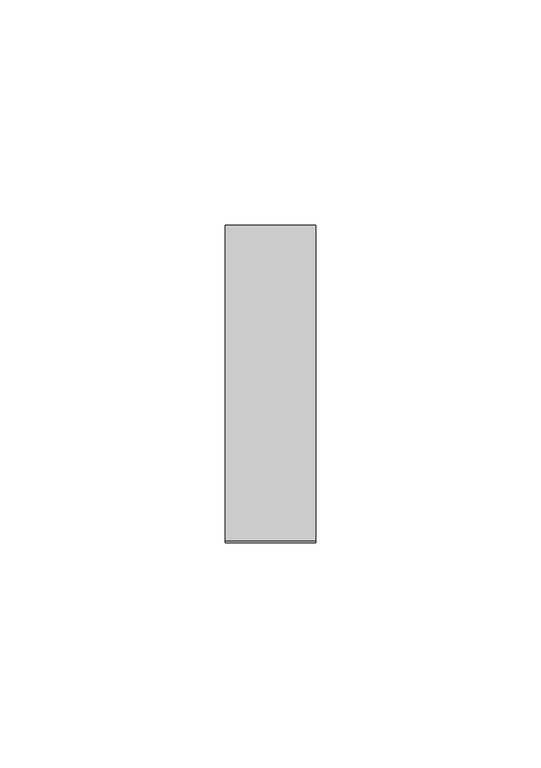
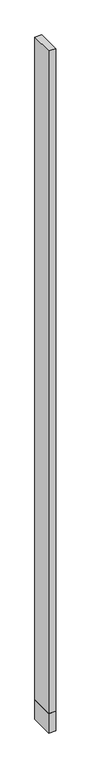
"""IFC4 building model written with IfcOpenShell, lengths in millimetres: plate geometry, 営_パーティションパネル_下部 : パーティションパネル_下部."""

from ifc_helpers import new_model, si_unit, frame, origin, origin_with_axes, place, context, project, spatial, polyline, outline, extrude, source, transform, mapped, element, save


def plate_13d9f7b6(model_context):
    return source(origin(), model_context, "Body", "SweptSolid", [
        extrude(outline(polyline([(-10.0, -35.0), (-10.0, 35.0), (10.0, 35.0), (10.0, -35.0), (-10.0, -35.0)])), origin_with_axes(), (0.0, 0.0, 1.0), 60.0),
        extrude(outline(polyline([(-10.0, -35.0), (-10.0, 35.0), (10.0, 35.0), (10.0, -35.0), (-10.0, -35.0)])), frame((0.0, 0.0, 60.0), z_axis=(0.0, 0.0, 1.0), x_axis=(1.0, 0.0, 0.0)), (0.0, 0.0, 1.0), 2040.0),
    ])


if __name__ == "__main__":
    model = new_model("IFC4")
    model_context = context("Model", 3, world=origin())
    ifc_project = project(units=[si_unit("LENGTHUNIT", "METRE", prefix="MILLI")], contexts=[model_context])
    site = spatial("IfcSite", under=ifc_project)
    building = spatial("IfcBuilding", under=site)
    placement = place(None, origin())
    plate_shape = plate_13d9f7b6(model_context)
    element("IfcPlate", 1, ObjectType="営_パーティションパネル_下部 : パーティションパネル_下部", at=placement, inside=building, context=model_context, shape_type="MappedRepresentation", body=[
        mapped(plate_shape, transform((0.0, 0.0, 0.0), x_axis=(1.0, 0.0, 0.0), y_axis=(0.0, 1.0, 0.0), z_axis=(0.0, 0.0, 1.0))),
    ])
    save(model, "model.ifc")
